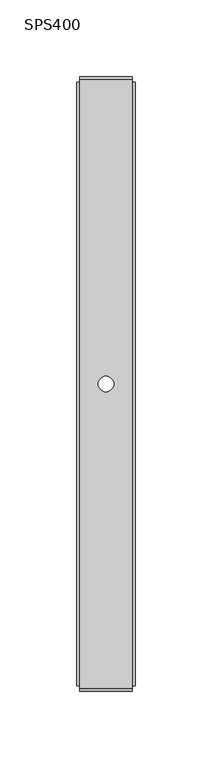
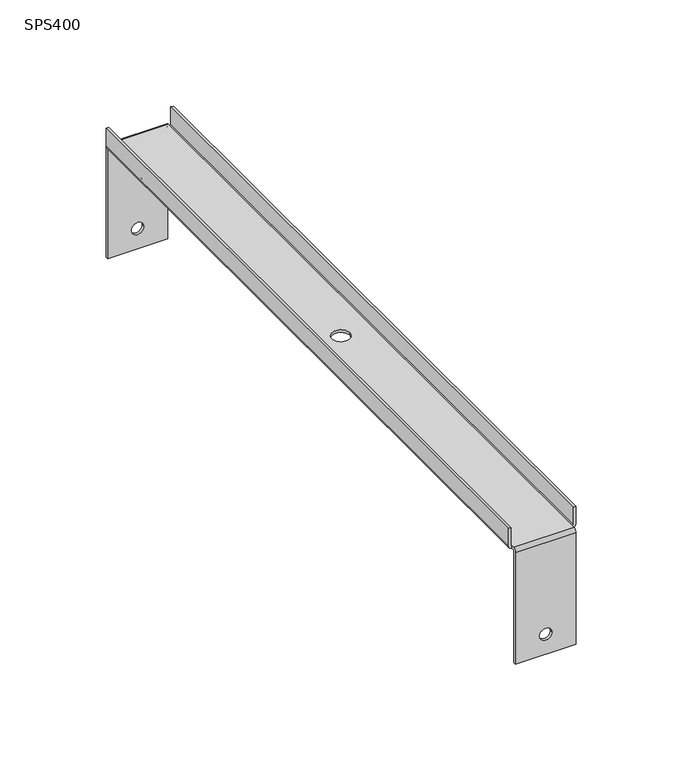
"""IFC4 building model written with IfcOpenShell, lengths in millimetres: proxy geometry, КМ Профиль_Скоба для подвеса на шпильке SPS : SPS400."""

from ifc_helpers import new_model, si_unit, frame, origin, place, context, project, spatial, polyline, circle_curve, source, transform, mapped, element, save
from ifc_brep_helpers import plane_surface, cylinder_surface, revolved_surface, advanced_brep


def sps400_334b0b22(model_context):
    return source(origin(), model_context, "Body", "AdvancedBrep", [
        advanced_brep(
        [(-17.0, 198.0, 0.0), (-17.0, 200.0, -2.0), (-17.0, 200.0, -68.5), (-17.0, 198.5, -68.5), (-17.0, 198.5, -2.0), (-17.0, 198.0, -1.5), (-17.0, 196.5, -1.5), (-17.0, 196.5, 0.0), (-17.0, -198.0, -1.5), (-17.0, -198.5, -2.0), (-17.0, -198.5, -68.5), (-17.0, -200.0, -68.5), (-17.0, -200.0, -2.0), (-17.0, -198.0, 0.0), (-17.0, -196.5, 0.0), (-17.0, -196.5, -1.5), (17.0, -198.0, 0.0), (17.0, -200.0, -2.0), (17.0, -200.0, -68.5), (17.0, -198.5, -68.5), (17.0, -198.5, -2.0), (17.0, -198.0, -1.5), (17.0, -196.5, -1.5), (17.0, -196.5, 0.0), (17.0, 198.0, -1.5), (17.0, 198.5, -2.0), (17.0, 198.5, -68.5), (17.0, 200.0, -68.5), (17.0, 200.0, -2.0), (17.0, 198.0, 0.0), (17.0, 196.5, 0.0), (17.0, 196.5, -1.5), (5.0, 0.0, 0.0), (0.0, -5.0, 0.0), (-5.0, 0.0, 0.0), (0.0, 5.0, 0.0), (-3.5, -198.5, -56.5), (3.5, -198.5, -56.5), (3.5, -200.0, -56.5), (-3.5, -200.0, -56.5), (5.0, 0.0, -1.5), (0.0, 5.0, -1.5), (-5.0, 0.0, -1.5), (0.0, -5.0, -1.5), (-3.5, 200.0, -56.5), (3.5, 200.0, -56.5), (3.5, 198.5, -56.5), (-3.5, 198.5, -56.5), (19.0, 196.5, 11.0), (19.0, 196.5, 0.5), (17.5, 196.5, 0.5), (17.5, 196.5, 11.0), (-19.0, 196.5, 0.5), (-19.0, 196.5, 11.0), (-17.5, 196.5, 11.0), (-17.5, 196.5, 0.5), (19.0, -196.5, 0.5), (19.0, -196.5, 11.0), (17.5, -196.5, 11.0), (17.5, -196.5, 0.5), (-17.5, -196.5, 0.5), (-17.5, -196.5, 11.0), (-19.0, -196.5, 11.0), (-19.0, -196.5, 0.5)],
        [
            (0, 1, circle_curve(frame((-17.0, 198.0, -2.0), z_axis=(-1.0, 0.0, 0.0), x_axis=(0.0, 1.0, 0.0)), 2.0)),
            (1, 2),
            (2, 3),
            (3, 4),
            (4, 5, circle_curve(frame((-17.0, 198.0, -2.0), z_axis=(1.0, 0.0, 0.0), x_axis=(0.0, 1.0, 0.0)), 0.5)),
            (5, 6),
            (6, 7),
            (7, 0),
            (8, 9, circle_curve(frame((-17.0, -198.0, -2.0), z_axis=(1.0, 0.0, 0.0), x_axis=(0.0, 1.0, 0.0)), 0.5)),
            (9, 10),
            (10, 11),
            (11, 12),
            (12, 13, circle_curve(frame((-17.0, -198.0, -2.0), z_axis=(-1.0, 0.0, 0.0), x_axis=(0.0, 1.0, 0.0)), 2.0)),
            (13, 14),
            (14, 15),
            (15, 8),
            (16, 17, circle_curve(frame((17.0, -198.0, -2.0), z_axis=(1.0, 0.0, 0.0), x_axis=(0.0, 1.0, 0.0)), 2.0)),
            (17, 18),
            (18, 19),
            (19, 20),
            (20, 21, circle_curve(frame((17.0, -198.0, -2.0), z_axis=(-1.0, 0.0, 0.0), x_axis=(0.0, 1.0, 0.0)), 0.5)),
            (21, 22),
            (22, 23),
            (23, 16),
            (24, 25, circle_curve(frame((17.0, 198.0, -2.0), z_axis=(-1.0, 0.0, 0.0), x_axis=(0.0, 1.0, 0.0)), 0.5)),
            (25, 26),
            (26, 27),
            (27, 28),
            (28, 29, circle_curve(frame((17.0, 198.0, -2.0), z_axis=(1.0, 0.0, 0.0), x_axis=(0.0, 1.0, 0.0)), 2.0)),
            (29, 30),
            (30, 31),
            (31, 24),
            (13, 16),
            (23, 30),
            (29, 0),
            (7, 14),
            (32, 33, circle_curve(frame((0.0, 0.0, 0.0), z_axis=(0.0, 0.0, -1.0), x_axis=(1.0, 0.0, 0.0)), 5.0)),
            (33, 34, circle_curve(frame((0.0, 0.0, 0.0), z_axis=(0.0, 0.0, -1.0), x_axis=(1.0, 0.0, 0.0)), 5.0)),
            (34, 35, circle_curve(frame((0.0, 0.0, 0.0), z_axis=(0.0, 0.0, -1.0), x_axis=(1.0, 0.0, 0.0)), 5.0)),
            (35, 32, circle_curve(frame((0.0, 0.0, 0.0), z_axis=(0.0, 0.0, -1.0), x_axis=(1.0, 0.0, 0.0)), 5.0)),
            (9, 20),
            (19, 10),
            (36, 37, circle_curve(frame((0.0, -198.5, -56.5), z_axis=(0.0, -1.0, 0.0), x_axis=(1.0, 0.0, 0.0)), 3.5)),
            (37, 36, circle_curve(frame((0.0, -198.5, -56.5), z_axis=(0.0, -1.0, 0.0), x_axis=(1.0, 0.0, 0.0)), 3.5)),
            (18, 11),
            (17, 12),
            (38, 39, circle_curve(frame((0.0, -200.0, -56.5), z_axis=(0.0, 1.0, 0.0), x_axis=(1.0, 0.0, 0.0)), 3.5)),
            (39, 38, circle_curve(frame((0.0, -200.0, -56.5), z_axis=(0.0, 1.0, 0.0), x_axis=(1.0, 0.0, 0.0)), 3.5)),
            (5, 24),
            (31, 22),
            (21, 8),
            (15, 6),
            (40, 41, circle_curve(frame((0.0, 0.0, -1.5), z_axis=(0.0, 0.0, 1.0), x_axis=(1.0, 0.0, 0.0)), 5.0)),
            (41, 42, circle_curve(frame((0.0, 0.0, -1.5), z_axis=(0.0, 0.0, 1.0), x_axis=(1.0, 0.0, 0.0)), 5.0)),
            (42, 43, circle_curve(frame((0.0, 0.0, -1.5), z_axis=(0.0, 0.0, 1.0), x_axis=(1.0, 0.0, 0.0)), 5.0)),
            (43, 40, circle_curve(frame((0.0, 0.0, -1.5), z_axis=(0.0, 0.0, 1.0), x_axis=(1.0, 0.0, 0.0)), 5.0)),
            (1, 28),
            (27, 2),
            (44, 45, circle_curve(frame((0.0, 200.0, -56.5), z_axis=(0.0, -1.0, 0.0), x_axis=(1.0, 0.0, 0.0)), 3.5)),
            (45, 44, circle_curve(frame((0.0, 200.0, -56.5), z_axis=(0.0, -1.0, 0.0), x_axis=(1.0, 0.0, 0.0)), 3.5)),
            (26, 3),
            (25, 4),
            (46, 47, circle_curve(frame((0.0, 198.5, -56.5), z_axis=(0.0, 1.0, 0.0), x_axis=(1.0, 0.0, 0.0)), 3.5)),
            (47, 46, circle_curve(frame((0.0, 198.5, -56.5), z_axis=(0.0, 1.0, 0.0), x_axis=(1.0, 0.0, 0.0)), 3.5)),
            (32, 40),
            (42, 34),
            (48, 49),
            (49, 31, circle_curve(frame((17.0, 196.5, 0.5), z_axis=(0.0, 1.0, 0.0), x_axis=(1.0, 0.0, 0.0)), 2.0)),
            (30, 50, circle_curve(frame((17.0, 196.5, 0.5), z_axis=(0.0, -1.0, 0.0), x_axis=(1.0, 0.0, 0.0)), 0.5)),
            (50, 51),
            (51, 48),
            (6, 52, circle_curve(frame((-17.0, 196.5, 0.5), z_axis=(0.0, 1.0, 0.0), x_axis=(1.0, 0.0, 0.0)), 2.0)),
            (52, 53),
            (53, 54),
            (54, 55),
            (55, 7, circle_curve(frame((-17.0, 196.5, 0.5), z_axis=(0.0, -1.0, 0.0), x_axis=(1.0, 0.0, 0.0)), 0.5)),
            (56, 57),
            (57, 58),
            (58, 59),
            (59, 23, circle_curve(frame((17.0, -196.5, 0.5), z_axis=(0.0, 1.0, 0.0), x_axis=(1.0, 0.0, 0.0)), 0.5)),
            (22, 56, circle_curve(frame((17.0, -196.5, 0.5), z_axis=(0.0, -1.0, 0.0), x_axis=(1.0, 0.0, 0.0)), 2.0)),
            (14, 60, circle_curve(frame((-17.0, -196.5, 0.5), z_axis=(0.0, 1.0, 0.0), x_axis=(1.0, 0.0, 0.0)), 0.5)),
            (60, 61),
            (61, 62),
            (62, 63),
            (63, 15, circle_curve(frame((-17.0, -196.5, 0.5), z_axis=(0.0, -1.0, 0.0), x_axis=(1.0, 0.0, 0.0)), 2.0)),
            (48, 57),
            (56, 49),
            (63, 52),
            (62, 53),
            (61, 54),
            (60, 55),
            (59, 50),
            (58, 51),
            (36, 39),
            (38, 37),
            (44, 47),
            (46, 45),
        ],
        [
            plane_surface(frame((-17.0, 0.0, 0.0), z_axis=(-1.0, 0.0, 0.0), x_axis=(0.0, 0.0, 1.0))),
            plane_surface(frame((17.0, 0.0, 0.0), z_axis=(1.0, 0.0, 0.0), x_axis=(0.0, 0.0, 1.0))),
            plane_surface(frame((-17.0, -198.0, 0.0), z_axis=(0.0, 0.0, 1.0), x_axis=(1.0, 0.0, 0.0))),
            plane_surface(frame((-17.0, -198.5, -2.0), z_axis=(0.0, 1.0, 0.0), x_axis=(1.0, 0.0, 0.0))),
            plane_surface(frame((-17.0, -198.5, -68.5), z_axis=(0.0, 0.0, -1.0), x_axis=(1.0, 0.0, 0.0))),
            plane_surface(frame((-17.0, -200.0, -68.5), z_axis=(0.0, -1.0, 0.0), x_axis=(1.0, 0.0, 0.0))),
            plane_surface(frame((-17.0, 198.0, -1.5), z_axis=(0.0, 0.0, -1.0), x_axis=(1.0, 0.0, 0.0))),
            plane_surface(frame((-17.0, 200.0, -2.0), z_axis=(0.0, 1.0, 0.0), x_axis=(1.0, 0.0, 0.0))),
            plane_surface(frame((-17.0, 200.0, -68.5), z_axis=(0.0, 0.0, -1.0), x_axis=(1.0, 0.0, 0.0))),
            plane_surface(frame((-17.0, 198.5, -68.5), z_axis=(0.0, -1.0, 0.0), x_axis=(1.0, 0.0, 0.0))),
            revolved_surface(polyline([(17.0, 198.5, -2.0), (-17.0, 198.5, -2.0)]), (-17.0, 198.0, -2.0), (1.0, 0.0, 0.0)),
            revolved_surface(polyline([(17.0, -197.5, -2.0), (-17.0, -197.5, -2.0)]), (-17.0, -198.0, -2.0), (1.0, 0.0, 0.0)),
            cylinder_surface(frame((-17.0, -198.0, -2.0), z_axis=(-1.0, 0.0, 0.0), x_axis=(0.0, 1.0, 0.0)), 2.0),
            cylinder_surface(frame((-17.0, 198.0, -2.0), z_axis=(-1.0, 0.0, 0.0), x_axis=(0.0, 1.0, 0.0)), 2.0),
            revolved_surface(polyline([(5.0, 0.0, 0.0), (5.0, 0.0, -1.5)]), (0.0, 0.0, -1.5), (0.0, 0.0, 1.0)),
            plane_surface(frame((0.0, 196.5, 0.0), z_axis=(0.0, 1.0, 0.0), x_axis=(0.0, 0.0, 1.0))),
            plane_surface(frame((0.0, -196.5, 0.0), z_axis=(0.0, -1.0, 0.0), x_axis=(0.0, 0.0, 1.0))),
            plane_surface(frame((19.0, 196.5, 11.0), z_axis=(1.0, 0.0, 0.0), x_axis=(0.0, -1.0, 0.0))),
            cylinder_surface(frame((17.0, 196.5, 0.5), z_axis=(0.0, 1.0, 0.0), x_axis=(1.0, 0.0, 0.0)), 2.0),
            cylinder_surface(frame((-17.0, 196.5, 0.5), z_axis=(0.0, 1.0, 0.0), x_axis=(1.0, 0.0, 0.0)), 2.0),
            plane_surface(frame((-19.0, 196.5, 0.5), z_axis=(-1.0, 0.0, 0.0), x_axis=(0.0, -1.0, 0.0))),
            plane_surface(frame((-19.0, 196.5, 11.0), z_axis=(0.0, 0.0, 1.0), x_axis=(0.0, -1.0, 0.0))),
            plane_surface(frame((-17.5, 196.5, 11.0), z_axis=(1.0, 0.0, 0.0), x_axis=(0.0, -1.0, 0.0))),
            revolved_surface(polyline([(-16.5, -196.5, 0.5), (-16.5, 196.5, 0.5)]), (-17.0, 196.5, 0.5), (0.0, -1.0, 0.0)),
            revolved_surface(polyline([(17.5, -196.5, 0.5), (17.5, 196.5, 0.5)]), (17.0, 196.5, 0.5), (0.0, -1.0, 0.0)),
            plane_surface(frame((17.5, 196.5, 0.5), z_axis=(-1.0, 0.0, 0.0), x_axis=(0.0, -1.0, 0.0))),
            plane_surface(frame((17.5, 196.5, 11.0), z_axis=(0.0, 0.0, 1.0), x_axis=(0.0, -1.0, 0.0))),
            revolved_surface(polyline([(3.5, -200.0, -56.5), (3.5, -198.5, -56.5)]), (0.0, 200.0, -56.5), (0.0, -1.0, 0.0)),
            revolved_surface(polyline([(3.5, 198.5, -56.5), (3.5, 200.0, -56.5)]), (0.0, 200.0, -56.5), (0.0, -1.0, 0.0)),
        ],
        [
            (0, [[1, 2, 3, 4, 5, 6, 7, 8]]),
            (0, [[9, 10, 11, 12, 13, 14, 15, 16]]),
            (1, [[17, 18, 19, 20, 21, 22, 23, 24]]),
            (1, [[25, 26, 27, 28, 29, 30, 31, 32]]),
            (2, [[33, -24, 34, -30, 35, -8, 36, -14], [37, 38, 39, 40]]),
            (3, [[-10, 41, -20, 42], [43, 44]]),
            (4, [[-11, -42, -19, 45]]),
            (5, [[-12, -45, -18, 46], [47, 48]]),
            (6, [[49, -32, 50, -22, 51, -16, 52, -6], [53, 54, 55, 56]]),
            (7, [[-2, 57, -28, 58], [59, 60]]),
            (8, [[-3, -58, -27, 61]]),
            (9, [[-4, -61, -26, 62], [63, 64]]),
            (10, [[-5, -62, -25, -49]]),
            (11, [[-9, -51, -21, -41]]),
            (12, [[-13, -46, -17, -33]]),
            (13, [[-1, -35, -29, -57]]),
            (14, [[65, -56, -55, 66, -38, -37]]),
            (14, [[-65, -40, -39, -66, -54, -53]]),
            (15, [[67, 68, -31, 69, 70, 71]]),
            (15, [[72, 73, 74, 75, 76, -7]]),
            (16, [[77, 78, 79, 80, -23, 81]]),
            (16, [[82, 83, 84, 85, 86, -15]]),
            (17, [[-67, 87, -77, 88]]),
            (18, [[-68, -88, -81, -50]]),
            (19, [[-72, -52, -86, 89]]),
            (20, [[-73, -89, -85, 90]]),
            (21, [[-74, -90, -84, 91]]),
            (22, [[-75, -91, -83, 92]]),
            (23, [[-76, -92, -82, -36]]),
            (24, [[-69, -34, -80, 93]]),
            (25, [[-70, -93, -79, 94]]),
            (26, [[-71, -94, -78, -87]]),
            (27, [[-43, 95, -47, 96]]),
            (28, [[-59, 97, -63, 98]]),
            (27, [[-44, -96, -48, -95]]),
            (28, [[-60, -98, -64, -97]]),
        ],
    ),
    ])


if __name__ == "__main__":
    model = new_model("IFC4")
    model_context = context("Model", 3, world=origin())
    ifc_project = project(units=[si_unit("LENGTHUNIT", "METRE", prefix="MILLI")], contexts=[model_context])
    site = spatial("IfcSite", under=ifc_project)
    building = spatial("IfcBuilding", under=site)
    placement = place(None, origin())
    sps400_shape = sps400_334b0b22(model_context)
    element("IfcBuildingElementProxy", 1, Name="КМ Профиль_Скоба для подвеса на шпильке SPS : SPS400", ObjectType="КМ Профиль_Скоба для подвеса на шпильке SPS : SPS400", at=placement, inside=building, context=model_context, shape_type="MappedRepresentation", body=[
        mapped(sps400_shape, transform((0.0, 0.0, 0.0), x_axis=(1.0, 0.0, 0.0), y_axis=(0.0, 1.0, 0.0), z_axis=(0.0, 0.0, 1.0))),
    ])
    save(model, "model.ifc")
